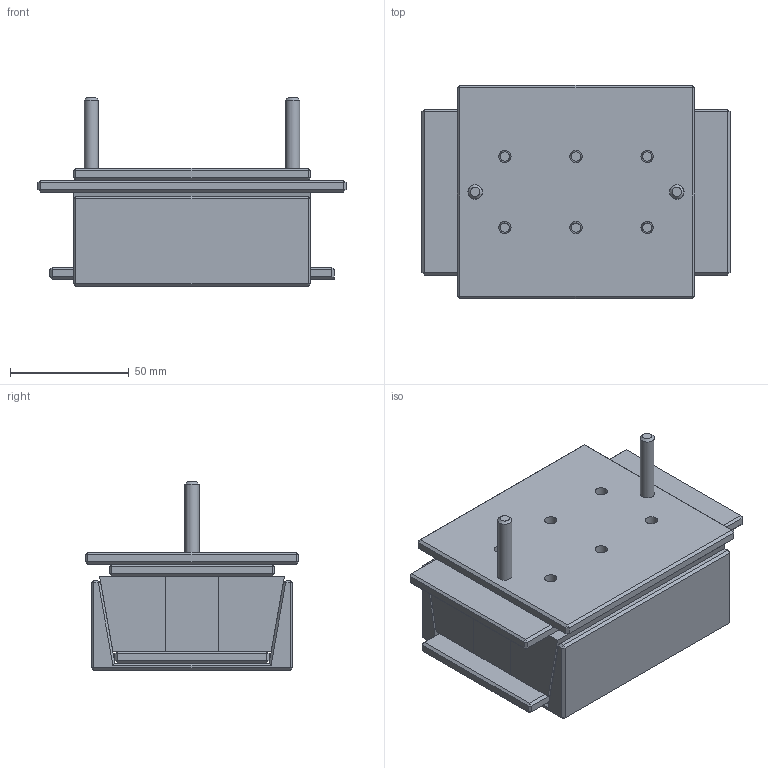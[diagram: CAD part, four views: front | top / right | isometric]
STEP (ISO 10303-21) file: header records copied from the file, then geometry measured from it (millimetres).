
FILE_DESCRIPTION(('STEP AP242'), '1');
FILE_NAME('ôîðìà 6 ïîç òóëîâèùå', '', ('UNSPECIFIED'), ('UNSPECIFIED'), 'C3D Converter', 'C3D Toolkit', '');
FILE_SCHEMA(('AP242_MANAGED_MODEL_BASED_3D_ENGINEERING_MIM_LF { 1 0 10303 442 1 1 4 }'));
Length unit declared in the file: millimetre
Products named in the file (8): 1.1; 1.3; 1.2-01-1; 1.4; 1.5; -09 прямое; 1.2-01-2
Assembly tree (8 placements, depth 2):
  (unnamed)
    1.1
    1.3
    1.2-01-1
    1.4
    1.5
    -09 прямое
    1.2-01-2  x2
Bounding box: 130 x 90 x 79.5 mm (x, y, z)
Volume: 410075.5 mm3; surface area: 156207.3 mm2
Topology: 8 solids, 8 shells, 319 faces, 676 edges, 400 vertices
Faces by surface type: plane 184, cylinder 68, torus 43, cone 22, bspline 2
Full cylindrical faces by diameter (mm): 5 x1, 5.2 x6, 6 x2, 6.1 x8, 12.2 x6, 12.3 x6, 13.9 x6, 14 x6, 20.943 x1, 21.4 x6
Entity records: 7924 total; most frequent: DIRECTION 1348, CARTESIAN_POINT 1237, ORIENTED_EDGE 1046, EDGE_CURVE 523, AXIS2_PLACEMENT_3D 519, EDGE_LOOP 495, VERTEX_POINT 372, LINE 310
